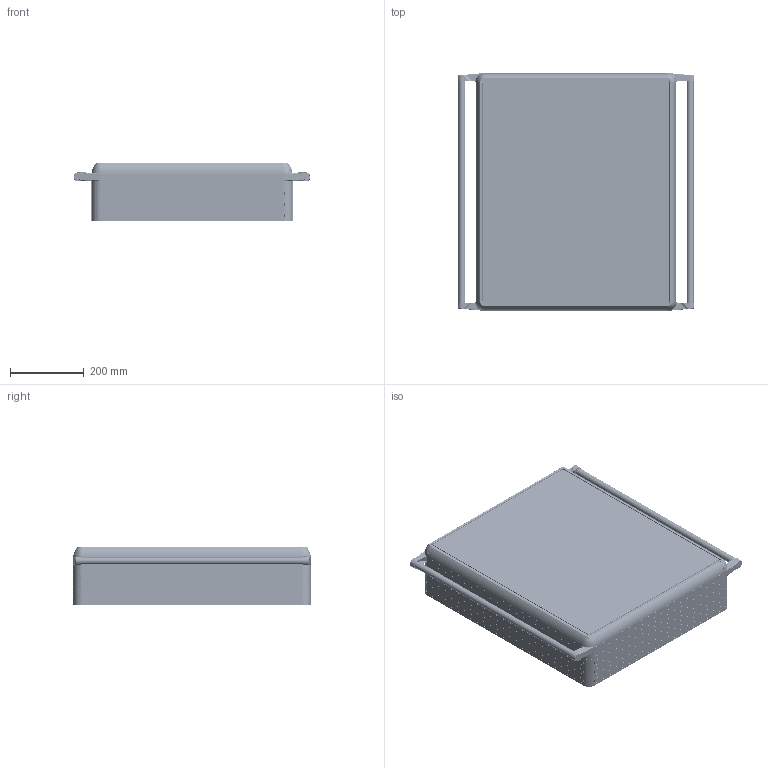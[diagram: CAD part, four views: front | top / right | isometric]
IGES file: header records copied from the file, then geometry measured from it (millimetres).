
Start section: SolidWorks IGES file using analytic representation for surfaces
Global section: file name: D:\PANO_STEP\150\150'lik data\1500-0215.IGS; native system: SolidWorks 2022; preprocessor: SolidWorks 2022; author: User; date: 220420.114529; units: millimetre
Bounding box: 644.62 x 647 x 158.05 mm (x, y, z)
Surface area: 3247047.1 mm2 (no closed solid volume)
Topology: 0 solids, 0 shells, 9012 faces, 73412 edges, 73220 vertices
Faces by surface type: bspline 6018, revolution 2994
